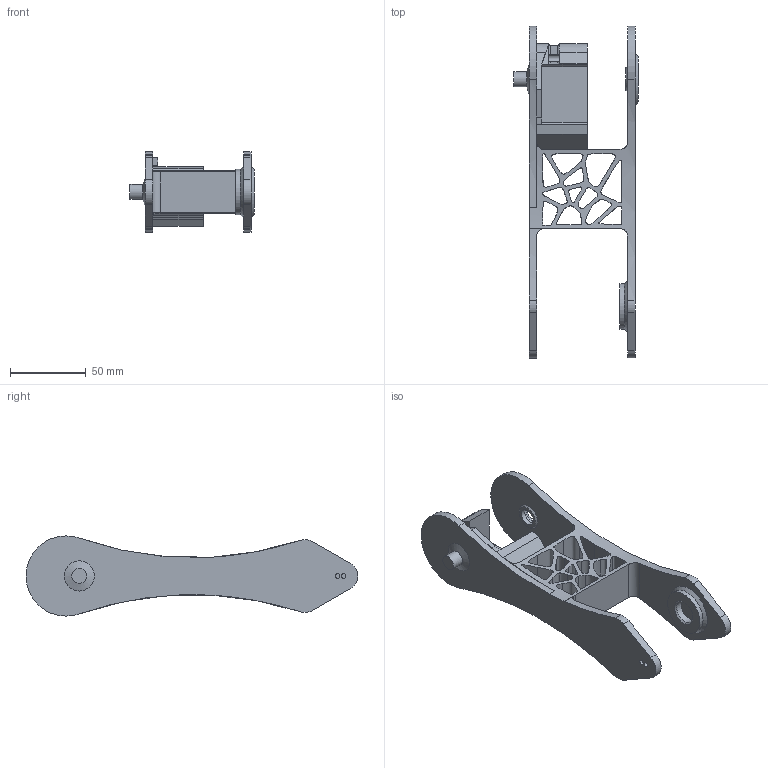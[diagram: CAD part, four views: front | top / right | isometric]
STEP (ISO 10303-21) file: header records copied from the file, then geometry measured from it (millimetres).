
FILE_DESCRIPTION(/* description */ (''),/* implementation_level */ '2;1');
FILE_NAME(/* name */ 'right_mid.step',/* time_stamp */ '2026-06-13T15:30:43-06:00',/* author */ (''),/* organization */ (''),/* preprocessor_version */ 'ST-DEVELOPER v20.1',/* originating_system */ 'Autodesk Translation Framework v15.8.0.0',/* authorisation */ '');
FILE_SCHEMA (('AUTOMOTIVE_DESIGN { 1 0 10303 214 3 1 1 }'));
Length unit declared in the file: millimetre
Products named in the file (1): right_mid
Bounding box: 82 x 219.16 x 52.93 mm (x, y, z)
Volume: 142889.1 mm3; surface area: 63723.2 mm2
Topology: 1 solids, 1 shells, 186 faces, 494 edges, 324 vertices
Faces by surface type: plane 76, cylinder 55, bspline 49, cone 6
Full cylindrical faces by diameter (mm): 3.1 x2, 4.5 x5, 6.3 x4, 9.9 x1, 11 x1, 15.1 x2, 30 x1
Entity records: 7324 total; most frequent: CARTESIAN_POINT 2910, ORIENTED_EDGE 988, DIRECTION 773, EDGE_CURVE 494, VERTEX_POINT 324, AXIS2_PLACEMENT_3D 267, LINE 239, VECTOR 239
